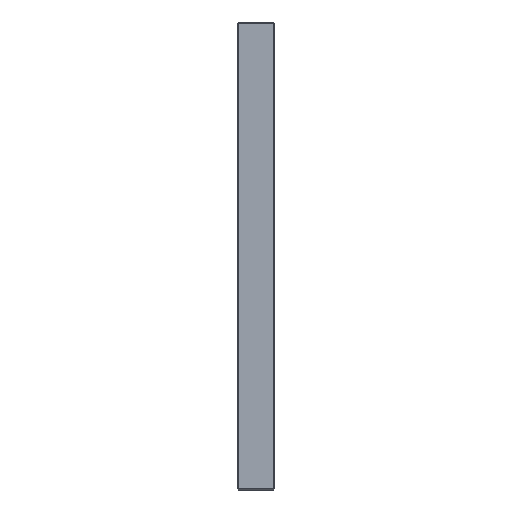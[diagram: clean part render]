
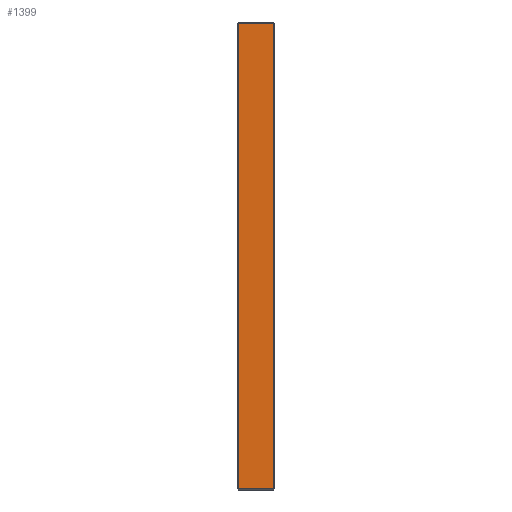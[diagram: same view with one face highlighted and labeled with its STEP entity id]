
A CAD part, left-side view. The second image highlights one B-rep face of the part: STEP entity #1399.
In plain terms, the highlighted planar face has unit normal (-1, 0, 0).
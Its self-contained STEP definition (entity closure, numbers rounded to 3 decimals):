
#81 = ORIENTED_EDGE ( 'NONE', *, *, #2276, .T. ) ;
#210 = VERTEX_POINT ( 'NONE', #1274 ) ;
#235 = LINE ( 'NONE', #703, #1961 ) ;
#332 = DIRECTION ( 'NONE',  ( 0., -1., 0. ) ) ;
#470 = CARTESIAN_POINT ( 'NONE',  ( -223., 36., -222. ) ) ;
#507 = AXIS2_PLACEMENT_3D ( 'NONE', #955, #914, #978 ) ;
#532 = VECTOR ( 'NONE', #332, 1000. ) ;
#570 = CARTESIAN_POINT ( 'NONE',  ( -223., 35., 222. ) ) ;
#632 = DIRECTION ( 'NONE',  ( 0., 0., 1. ) ) ;
#703 = CARTESIAN_POINT ( 'NONE',  ( -223., 1., 223. ) ) ;
#707 = VERTEX_POINT ( 'NONE', #570 ) ;
#709 = CARTESIAN_POINT ( 'NONE',  ( -223., 35., -223. ) ) ;
#789 = CARTESIAN_POINT ( 'NONE',  ( -223., 35., -222. ) ) ;
#813 = DIRECTION ( 'NONE',  ( 0., 0., -1. ) ) ;
#914 = DIRECTION ( 'NONE',  ( 1., 0., 0. ) ) ;
#955 = CARTESIAN_POINT ( 'NONE',  ( -223., 36., 223. ) ) ;
#978 = DIRECTION ( 'NONE',  ( 0., 0., -1. ) ) ;
#1032 = LINE ( 'NONE', #470, #532 ) ;
#1269 = PLANE ( 'NONE',  #507 ) ;
#1274 = CARTESIAN_POINT ( 'NONE',  ( -223., 1., 222. ) ) ;
#1292 = VERTEX_POINT ( 'NONE', #789 ) ;
#1399 = ADVANCED_FACE ( 'NONE', ( #1743 ), #1269, .F. ) ;
#1548 = CARTESIAN_POINT ( 'NONE',  ( -223., 36., 222. ) ) ;
#1558 = DIRECTION ( 'NONE',  ( 0., 1., 0. ) ) ;
#1564 = ORIENTED_EDGE ( 'NONE', *, *, #2126, .T. ) ;
#1667 = ORIENTED_EDGE ( 'NONE', *, *, #2284, .T. ) ;
#1743 = FACE_OUTER_BOUND ( 'NONE', #2061, .T. ) ;
#1799 = ORIENTED_EDGE ( 'NONE', *, *, #2267, .T. ) ;
#1912 = VECTOR ( 'NONE', #813, 1000. ) ;
#1943 = VECTOR ( 'NONE', #1558, 1000. ) ;
#1944 = CARTESIAN_POINT ( 'NONE',  ( -223., 1., -222. ) ) ;
#1961 = VECTOR ( 'NONE', #632, 1000. ) ;
#1987 = LINE ( 'NONE', #1548, #1943 ) ;
#1993 = VERTEX_POINT ( 'NONE', #1944 ) ;
#2061 = EDGE_LOOP ( 'NONE', ( #1799, #81, #1564, #1667 ) ) ;
#2126 = EDGE_CURVE ( 'NONE', #210, #707, #1987, .T. ) ;
#2267 = EDGE_CURVE ( 'NONE', #1292, #1993, #1032, .T. ) ;
#2276 = EDGE_CURVE ( 'NONE', #1993, #210, #235, .T. ) ;
#2284 = EDGE_CURVE ( 'NONE', #707, #1292, #2328, .T. ) ;
#2328 = LINE ( 'NONE', #709, #1912 ) ;
